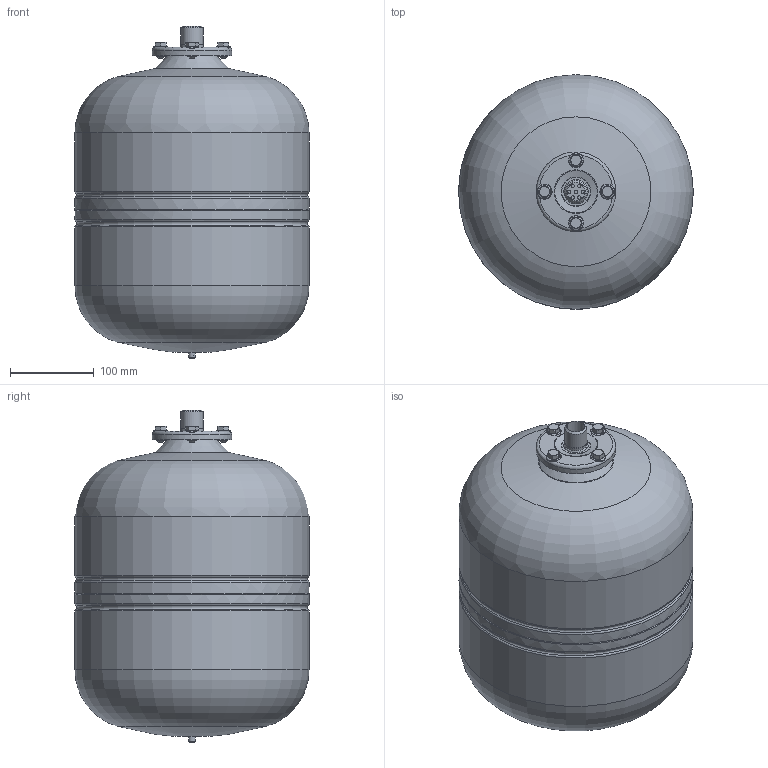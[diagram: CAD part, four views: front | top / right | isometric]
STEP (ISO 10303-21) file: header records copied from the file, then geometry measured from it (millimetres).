
FILE_DESCRIPTION(('STEP AP214'), '1');
FILE_NAME('WAV-18', '', ('UNSPECIFIED'), ('UNSPECIFIED'), 'ASCON STEP Converter 1.3', 'ASCON Math Kernel', '');
FILE_SCHEMA(('AUTOMOTIVE_DESIGN { 1 0 10303 214 3 1 1}'));
Length unit declared in the file: millimetre
Assembly tree (1 placements, depth 2):
  (unnamed)
    (unnamed)
Bounding box: 280.53 x 280.53 x 397 mm (x, y, z)
Volume: 18553624.7 mm3; surface area: 373290.9 mm2
Topology: 8 solids, 9 shells, 225 faces, 540 edges, 356 vertices
Faces by surface type: plane 118, cylinder 37, cone 27, torus 25, bspline 16, sphere 2
Full cylindrical faces by diameter (mm): 4 x7, 5.5 x1, 8 x9, 9 x4, 10.6 x4, 21.2 x1, 26.442 x1, 26.8 x1, 95 x1, 280 x4
Entity records: 12692 total; most frequent: CARTESIAN_POINT 5753, DIRECTION 1066, ORIENTED_EDGE 936, AXIS2_PLACEMENT_3D 482, EDGE_CURVE 468, VERTEX_POINT 354, EDGE_LOOP 326, FACE_BOUND 304
